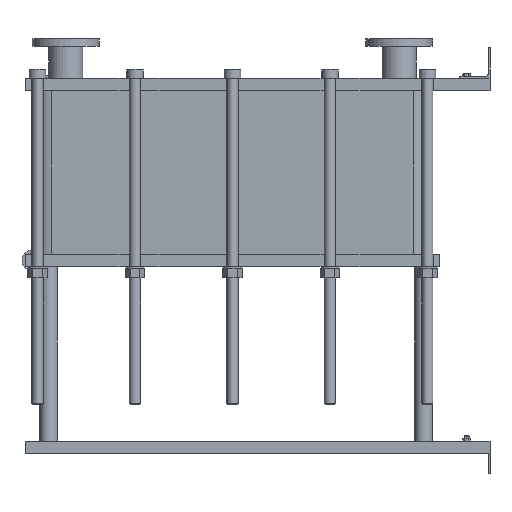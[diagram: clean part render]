
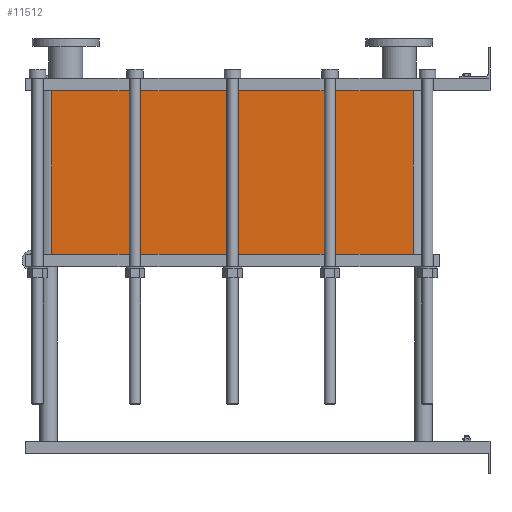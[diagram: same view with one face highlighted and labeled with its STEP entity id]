
A CAD part, left-side view. The second image highlights one B-rep face of the part: STEP entity #11512.
In plain terms, the highlighted planar face has unit normal (-1, 0, 0).
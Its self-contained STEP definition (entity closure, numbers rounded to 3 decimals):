
#1129=LINE('',#23232,#2102);
#1130=LINE('',#23236,#2103);
#1131=LINE('',#23238,#2104);
#1132=LINE('',#23239,#2105);
#2102=VECTOR('',#15887,10.);
#2103=VECTOR('',#15892,10.);
#2104=VECTOR('',#15893,10.);
#2105=VECTOR('',#15894,10.);
#3267=FACE_OUTER_BOUND('',#4093,.T.);
#4093=EDGE_LOOP('',(#10103,#10104,#10105,#10106));
#5642=VERTEX_POINT('',#23229);
#5643=VERTEX_POINT('',#23231);
#5644=VERTEX_POINT('',#23235);
#5645=VERTEX_POINT('',#23237);
#7159=EDGE_CURVE('',#5643,#5642,#1129,.T.);
#7161=EDGE_CURVE('',#5642,#5644,#1130,.T.);
#7162=EDGE_CURVE('',#5645,#5644,#1131,.T.);
#7163=EDGE_CURVE('',#5645,#5643,#1132,.T.);
#10103=ORIENTED_EDGE('',*,*,#7161,.T.);
#10104=ORIENTED_EDGE('',*,*,#7162,.F.);
#10105=ORIENTED_EDGE('',*,*,#7163,.T.);
#10106=ORIENTED_EDGE('',*,*,#7159,.T.);
#10857=PLANE('',#12751);
#11512=ADVANCED_FACE('',(#3267),#10857,.T.);
#12751=AXIS2_PLACEMENT_3D('',#23234,#15890,#15891);
#15887=DIRECTION('',(0.,0.,-1.));
#15890=DIRECTION('center_axis',(-1.,0.,0.));
#15891=DIRECTION('ref_axis',(0.,1.,0.));
#15892=DIRECTION('',(0.,-1.,0.));
#15893=DIRECTION('',(0.,0.,-1.));
#15894=DIRECTION('',(0.,1.,0.));
#23229=CARTESIAN_POINT('',(-200.,1414.,-527.85));
#23231=CARTESIAN_POINT('',(-200.,1414.,0.));
#23232=CARTESIAN_POINT('',(-200.,1414.,0.));
#23234=CARTESIAN_POINT('Origin',(-200.,248.,0.));
#23235=CARTESIAN_POINT('',(-200.,248.,-527.85));
#23236=CARTESIAN_POINT('',(-200.,539.5,-527.85));
#23237=CARTESIAN_POINT('',(-200.,248.,0.));
#23238=CARTESIAN_POINT('',(-200.,248.,0.));
#23239=CARTESIAN_POINT('',(-200.,248.,0.));
